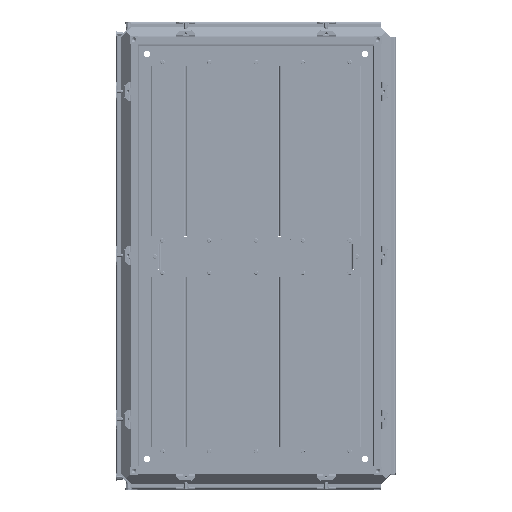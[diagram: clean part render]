
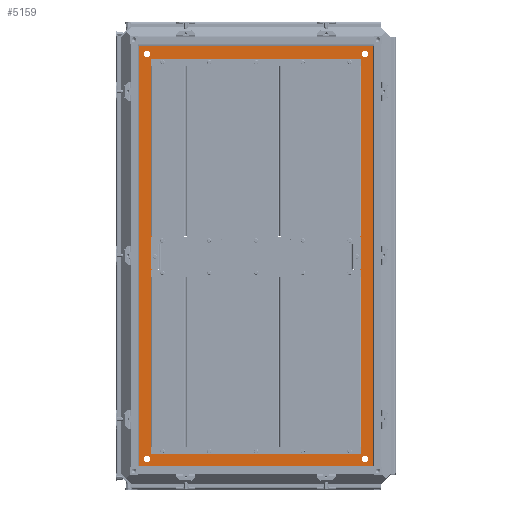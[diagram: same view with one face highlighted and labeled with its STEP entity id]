
A CAD part, top view. The second image highlights one B-rep face of the part: STEP entity #5159.
In plain terms, the highlighted planar face has unit normal (0, 0, 1).
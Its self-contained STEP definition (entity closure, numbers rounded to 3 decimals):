
#5159=ADVANCED_FACE('',(#18179,#18181,#18183,#18185,#18187,#18189),#18191,.F.);
#18179=FACE_BOUND('',#18180,.T.);
#18180=EDGE_LOOP('',(#118537,#118538,#118539,#118540));
#18181=FACE_BOUND('',#18182,.T.);
#18182=EDGE_LOOP('',(#118541,#118542,#118543,#118544));
#18183=FACE_BOUND('',#18184,.T.);
#18184=EDGE_LOOP('',(#118545));
#18185=FACE_BOUND('',#18186,.T.);
#18186=EDGE_LOOP('',(#118546));
#18187=FACE_BOUND('',#18188,.T.);
#18188=EDGE_LOOP('',(#118547));
#18189=FACE_BOUND('',#18190,.T.);
#18190=EDGE_LOOP('',(#118548));
#18191=PLANE('',#18192);
#18192=AXIS2_PLACEMENT_3D('',#18193,#18194,#18195);
#18193=CARTESIAN_POINT('',(0.,0.,-47.5));
#18194=DIRECTION('',(0.,0.,-1.));
#18195=DIRECTION('',(0.,1.,0.));
#118537=ORIENTED_EDGE('',*,*,#179047,.F.);
#118538=ORIENTED_EDGE('',*,*,#179048,.F.);
#118539=ORIENTED_EDGE('',*,*,#179049,.T.);
#118540=ORIENTED_EDGE('',*,*,#179050,.T.);
#118541=ORIENTED_EDGE('',*,*,#179051,.T.);
#118542=ORIENTED_EDGE('',*,*,#179052,.F.);
#118543=ORIENTED_EDGE('',*,*,#179053,.F.);
#118544=ORIENTED_EDGE('',*,*,#179054,.F.);
#118545=ORIENTED_EDGE('',*,*,#179055,.T.);
#118546=ORIENTED_EDGE('',*,*,#179056,.F.);
#118547=ORIENTED_EDGE('',*,*,#179057,.F.);
#118548=ORIENTED_EDGE('',*,*,#179058,.T.);
#179047=EDGE_CURVE('',#210234,#210235,#210236,.F.);
#179048=EDGE_CURVE('',#210237,#210234,#210238,.F.);
#179049=EDGE_CURVE('',#210237,#210239,#210240,.F.);
#179050=EDGE_CURVE('',#210239,#210235,#210241,.F.);
#179051=EDGE_CURVE('',#210242,#210243,#210244,.F.);
#179052=EDGE_CURVE('',#210245,#210243,#210246,.F.);
#179053=EDGE_CURVE('',#210247,#210245,#210248,.F.);
#179054=EDGE_CURVE('',#210242,#210247,#210249,.F.);
#179055=EDGE_CURVE('',#210250,#210250,#210251,.T.);
#179056=EDGE_CURVE('',#210252,#210252,#210253,.T.);
#179057=EDGE_CURVE('',#210254,#210254,#210255,.T.);
#179058=EDGE_CURVE('',#210256,#210256,#210257,.T.);
#210234=VERTEX_POINT('',#264563);
#210235=VERTEX_POINT('',#264564);
#210236=LINE('',#264565,#264566);
#210237=VERTEX_POINT('',#264568);
#210238=LINE('',#264569,#264570);
#210239=VERTEX_POINT('',#264572);
#210240=LINE('',#264573,#264574);
#210241=LINE('',#264576,#264577);
#210242=VERTEX_POINT('',#264579);
#210243=VERTEX_POINT('',#264580);
#210244=LINE('',#264581,#264582);
#210245=VERTEX_POINT('',#264584);
#210246=LINE('',#264585,#264586);
#210247=VERTEX_POINT('',#264588);
#210248=LINE('',#264589,#264590);
#210249=LINE('',#264592,#264593);
#210250=VERTEX_POINT('',#264595);
#210251=CIRCLE('',#264596,7.);
#210252=VERTEX_POINT('',#264600);
#210253=CIRCLE('',#264601,7.);
#210254=VERTEX_POINT('',#264605);
#210255=CIRCLE('',#264606,7.);
#210256=VERTEX_POINT('',#264610);
#210257=CIRCLE('',#264611,7.);
#264563=CARTESIAN_POINT('',(-1.6,1.6,-47.5));
#264564=CARTESIAN_POINT('',(-500.4,1.6,-47.5));
#264565=CARTESIAN_POINT('',(-500.4,1.6,-47.5));
#264566=VECTOR('',#264567,1.);
#264567=DIRECTION('',(1.,0.,0.));
#264568=CARTESIAN_POINT('',(-1.6,900.4,-47.5));
#264569=CARTESIAN_POINT('',(-1.6,1.6,-47.5));
#264570=VECTOR('',#264571,1.);
#264571=DIRECTION('',(0.,1.,0.));
#264572=CARTESIAN_POINT('',(-500.4,900.4,-47.5));
#264573=CARTESIAN_POINT('',(-500.4,900.4,-47.5));
#264574=VECTOR('',#264575,1.);
#264575=DIRECTION('',(1.,0.,0.));
#264576=CARTESIAN_POINT('',(-500.4,1.6,-47.5));
#264577=VECTOR('',#264578,1.);
#264578=DIRECTION('',(0.,1.,0.));
#264579=CARTESIAN_POINT('',(-39.4,39.4,-47.5));
#264580=CARTESIAN_POINT('',(-462.6,39.4,-47.5));
#264581=CARTESIAN_POINT('',(-462.6,39.4,-47.5));
#264582=VECTOR('',#264583,1.);
#264583=DIRECTION('',(1.,0.,0.));
#264584=CARTESIAN_POINT('',(-462.6,862.6,-47.5));
#264585=CARTESIAN_POINT('',(-462.6,39.4,-47.5));
#264586=VECTOR('',#264587,1.);
#264587=DIRECTION('',(0.,1.,0.));
#264588=CARTESIAN_POINT('',(-39.4,862.6,-47.5));
#264589=CARTESIAN_POINT('',(-462.6,862.6,-47.5));
#264590=VECTOR('',#264591,1.);
#264591=DIRECTION('',(1.,0.,0.));
#264592=CARTESIAN_POINT('',(-39.4,862.6,-47.5));
#264593=VECTOR('',#264594,1.);
#264594=DIRECTION('',(0.,-1.,0.));
#264595=CARTESIAN_POINT('',(-18.5,25.5,-47.5));
#264596=AXIS2_PLACEMENT_3D('',#264597,#264598,#264599);
#264597=CARTESIAN_POINT('',(-18.5,18.5,-47.5));
#264598=DIRECTION('',(0.,0.,-1.));
#264599=DIRECTION('',(0.,1.,0.));
#264600=CARTESIAN_POINT('',(-483.5,25.5,-47.5));
#264601=AXIS2_PLACEMENT_3D('',#264602,#264603,#264604);
#264602=CARTESIAN_POINT('',(-483.5,18.5,-47.5));
#264603=DIRECTION('',(0.,0.,1.));
#264604=DIRECTION('',(0.,1.,0.));
#264605=CARTESIAN_POINT('',(-18.5,876.5,-47.5));
#264606=AXIS2_PLACEMENT_3D('',#264607,#264608,#264609);
#264607=CARTESIAN_POINT('',(-18.5,883.5,-47.5));
#264608=DIRECTION('',(0.,0.,1.));
#264609=DIRECTION('',(0.,-1.,0.));
#264610=CARTESIAN_POINT('',(-483.5,876.5,-47.5));
#264611=AXIS2_PLACEMENT_3D('',#264612,#264613,#264614);
#264612=CARTESIAN_POINT('',(-483.5,883.5,-47.5));
#264613=DIRECTION('',(0.,0.,-1.));
#264614=DIRECTION('',(0.,-1.,0.));
